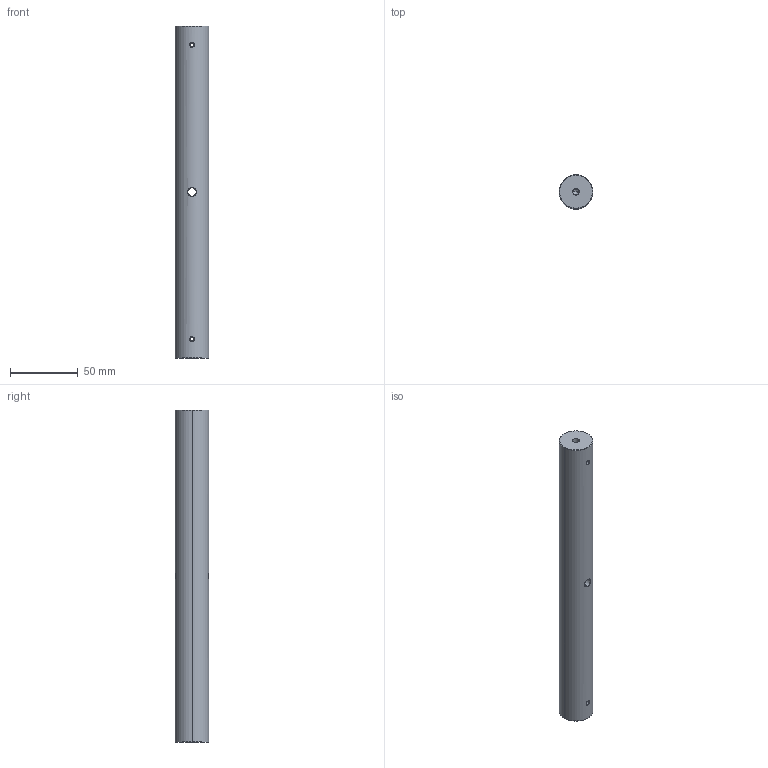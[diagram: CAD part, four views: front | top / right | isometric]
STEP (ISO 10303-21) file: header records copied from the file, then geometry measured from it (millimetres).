
FILE_DESCRIPTION (( 'STEP AP214' ), '1' );
FILE_NAME ('25mm盓裝.STEP', '2026-08-10T07:54:11', ( '' ), ( '' ), 'SwSTEP 2.0', 'SolidWorks 2024', '' );
FILE_SCHEMA (( 'AUTOMOTIVE_DESIGN' ));
Length unit declared in the file: millimetre
Products named in the file (1): 25mm支杆
Bounding box: 25 x 25 x 245.3 mm (x, y, z)
Volume: 118804.9 mm3; surface area: 21422 mm2
Topology: 1 solids, 1 shells, 38 faces, 106 edges, 64 vertices
Faces by surface type: cylinder 16, bspline 12, cone 8, plane 2
Entity records: 9663 total; most frequent: CARTESIAN_POINT 8807, ORIENTED_EDGE 204, DIRECTION 118, EDGE_CURVE 102, VERTEX_POINT 64, B_SPLINE_CURVE_WITH_KNOTS 58, AXIS2_PLACEMENT_3D 47, EDGE_LOOP 46
